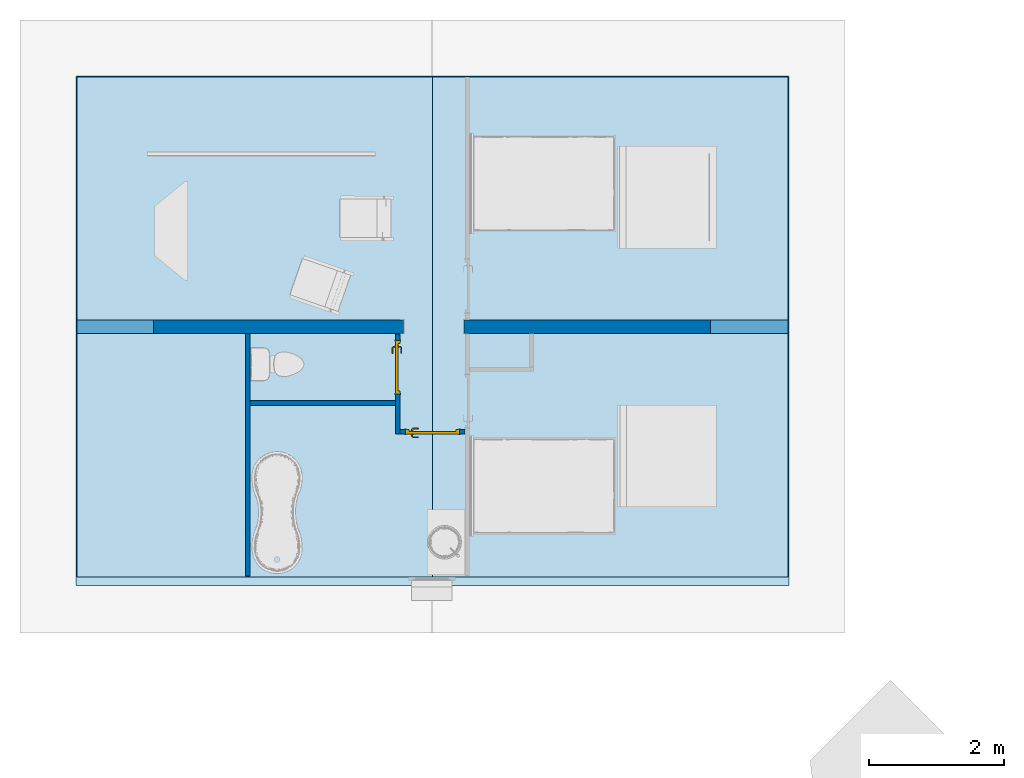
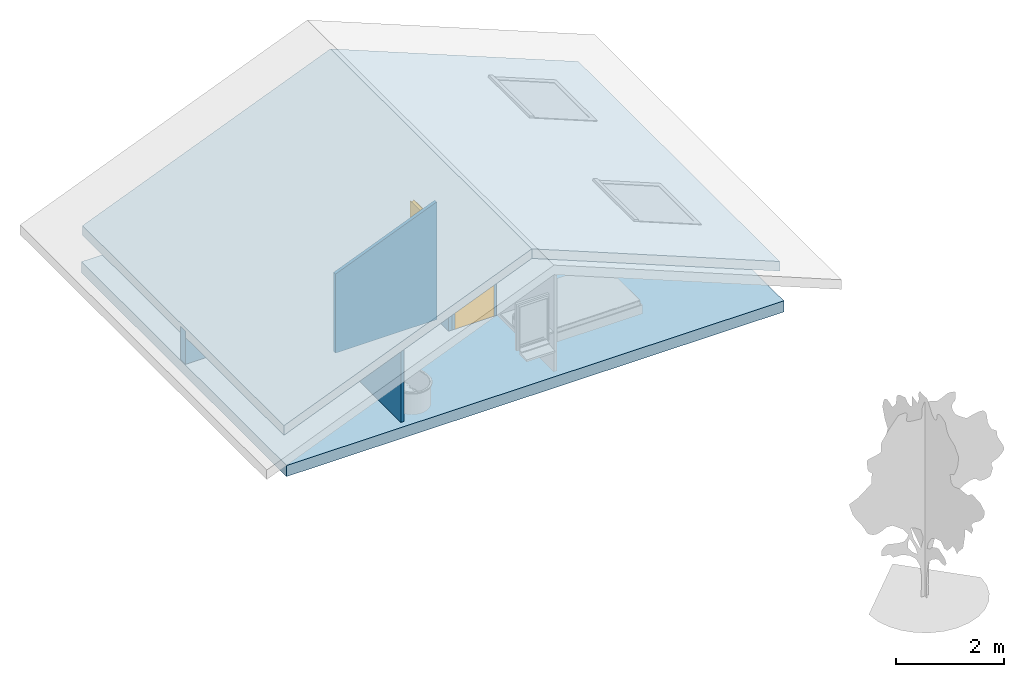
# One storey, part 1 of 6: 5 walls, 3 slabs, 2 doors, 4 openings, 1 element without a shape of its own.
"""IFC2X3 building model written with IfcOpenShell, lengths in metres."""

from ifc_helpers import new_model, entity, si_unit, converted_unit, derived_unit, direction, frame, frame_2d, origin, origin_2d_with_axis, place, context, subcontext, project, spatial, polyline, rectangle, extrude, clip, bounded_halfspace, faceted_brep, source, transform, mapped, material, material_list, layer, layer_set, layer_usage, type_object, type_shapes, element, fill, aggregate, save


model = new_model("IFC2X3")

# Units and contexts
model_context = context("Model", 3, precision=1e-05, world=origin(), true_north=direction((6.12303176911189e-17, 1.0)))
body_context = subcontext(model_context, "Body", "Model", "MODEL_VIEW")
ifc_project = project(units=[si_unit("LENGTHUNIT", "METRE"), si_unit("AREAUNIT", "SQUARE_METRE"), si_unit("VOLUMEUNIT", "CUBIC_METRE"), converted_unit("PLANEANGLEUNIT", "DEGREE", entity("IfcRatioMeasure", 0.0174532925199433), si_unit("PLANEANGLEUNIT", "RADIAN"), dimensions=[0, 0, 0, 0, 0, 0, 0]), si_unit("MASSUNIT", "GRAM", prefix="KILO"), derived_unit("MASSDENSITYUNIT", [(si_unit("MASSUNIT", "GRAM", prefix="KILO"), 1), (si_unit("LENGTHUNIT", "METRE"), -3)]), derived_unit("MOMENTOFINERTIAUNIT", [(si_unit("LENGTHUNIT", "METRE"), 4)]), si_unit("TIMEUNIT", "SECOND"), si_unit("FREQUENCYUNIT", "HERTZ"), si_unit("THERMODYNAMICTEMPERATUREUNIT", "DEGREE_CELSIUS"), derived_unit("THERMALTRANSMITTANCEUNIT", [(si_unit("MASSUNIT", "GRAM", prefix="KILO"), 1), (si_unit("THERMODYNAMICTEMPERATUREUNIT", "KELVIN"), -1), (si_unit("TIMEUNIT", "SECOND"), -3)]), derived_unit("VOLUMETRICFLOWRATEUNIT", [(si_unit("LENGTHUNIT", "METRE"), 3), (si_unit("TIMEUNIT", "SECOND"), -1)]), si_unit("ELECTRICCURRENTUNIT", "AMPERE"), si_unit("ELECTRICVOLTAGEUNIT", "VOLT"), si_unit("POWERUNIT", "WATT"), si_unit("FORCEUNIT", "NEWTON", prefix="KILO"), si_unit("ILLUMINANCEUNIT", "LUX"), si_unit("LUMINOUSFLUXUNIT", "LUMEN"), si_unit("LUMINOUSINTENSITYUNIT", "CANDELA"), derived_unit("USERDEFINED", [(si_unit("MASSUNIT", "GRAM", prefix="KILO"), -1), (si_unit("LENGTHUNIT", "METRE"), -2), (si_unit("TIMEUNIT", "SECOND"), 3), (si_unit("LUMINOUSFLUXUNIT", "LUMEN"), 1)]), derived_unit("LINEARVELOCITYUNIT", [(si_unit("LENGTHUNIT", "METRE"), 1), (si_unit("TIMEUNIT", "SECOND"), -1)]), si_unit("PRESSUREUNIT", "PASCAL"), derived_unit("USERDEFINED", [(si_unit("LENGTHUNIT", "METRE"), -2), (si_unit("MASSUNIT", "GRAM", prefix="KILO"), 1), (si_unit("TIMEUNIT", "SECOND"), -2)]), derived_unit("LINEARFORCEUNIT", [(si_unit("MASSUNIT", "GRAM", prefix="KILO"), 1), (si_unit("LENGTHUNIT", "METRE"), 1), (si_unit("TIMEUNIT", "SECOND"), -2), (si_unit("LENGTHUNIT", "METRE"), -1)]), derived_unit("PLANARFORCEUNIT", [(si_unit("MASSUNIT", "GRAM", prefix="KILO"), 1), (si_unit("LENGTHUNIT", "METRE"), 1), (si_unit("TIMEUNIT", "SECOND"), -2), (si_unit("LENGTHUNIT", "METRE"), -2)])], contexts=[model_context])

# Site, building, storey
site_placement = place(None, origin())
site = spatial("IfcSite", under=ifc_project, at=site_placement, Name="Surface", CompositionType="ELEMENT")
building_placement = place(site_placement, origin())
building = spatial("IfcBuilding", under=site, at=building_placement, CompositionType="ELEMENT")
storey_placement = place(building_placement, frame((0.0, 0.0, 5.6)))
storey = spatial("IfcBuildingStorey", under=building, at=storey_placement, Name="Niveau comble", CompositionType="ELEMENT", Elevation=5.6)

# Slab, opening
ifc_material_1 = material(Name="Maçonnerie - Béton")
ifc_layer_1 = layer(ifc_material_1, 0.25)
ifc_layer_set_1 = layer_set([ifc_layer_1], Name="Sol:Dalle en béton - 250 mm")
ifc_layer_usage_1 = layer_usage(ifc_layer_set_1, "AXIS3", "POSITIVE", 0.0)
slab_type_1 = type_object("IfcSlabType", Name="Sol:Dalle en béton - 250 mm", PredefinedType="FLOOR", material=ifc_layer_set_1)
slab_1_placement = place(storey_placement, frame((1.8693960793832, -0.550741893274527, -0.25)))
slab_1 = element("IfcSlab", 1, at=slab_1_placement, inside=storey, type_object=slab_type_1, material=ifc_layer_usage_1, Name="Sol:Dalle en béton - 250 mm", ObjectType="Sol:Dalle en béton - 250 mm", PredefinedType="FLOOR", context=body_context, shape_type="SweptSolid", body=[
    extrude(rectangle(XDim=10.6, YDim=7.57500000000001, at=origin_2d_with_axis()), frame((5.30000000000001, 3.78750000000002, 0.249999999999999), z_axis=(0.0, 0.0, -1.0), x_axis=(-1.0, 0.0, 0.0)), (0.0, 0.0, 1.0), 0.249999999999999),
])
opening_1_placement = place(slab_1_placement, frame((2.75768532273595, 6.97466465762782, 0.249999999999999)))
element("IfcOpeningElement", 2, at=opening_1_placement, cuts=slab_1, Name="Sol:Dalle en béton - 250 mm:2", ObjectType="Opening", context=body_context, shape_type="SweptSolid", body=[
    extrude(rectangle(XDim=1.15067068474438, YDim=3.39537064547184, at=origin_2d_with_axis()), frame((0.0, 0.0, 0.0), z_axis=(0.0, 0.0, -1.0), x_axis=(0.0, 1.0, 0.0)), (0.0, 0.0, 1.0), 0.249999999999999),
])

# Roof, slabs
roof_placement = place(storey_placement, frame((1.8843960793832, -0.425741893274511, 0.6)))
roof = element("IfcRoof", 3, at=roof_placement, inside=storey, Name="Toit de base:isolation toiture", ObjectType="Toit de base:isolation toiture", ShapeType="NOTDEFINED")
ifc_material_2 = material(Name="Maçonnerie - Isolant")
ifc_layer_2 = layer(ifc_material_2, 0.2)
ifc_layer_set_2 = layer_set([ifc_layer_2], Name="Toit de base:isolation toiture")
slab_type_2 = type_object("IfcSlabType", Name="Toit de base:isolation toiture", PredefinedType="ROOF")
slab_2_placement = place(roof_placement, origin())
slab_2 = element("IfcSlab", 4, at=slab_2_placement, type_object=slab_type_2, material=ifc_layer_set_2, Name="Toit de base:isolation toiture", ObjectType="Toit de base:isolation toiture", PredefinedType="ROOF", context=body_context, shape_type="SweptSolid", body=[
    extrude(rectangle(XDim=7.43499999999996, YDim=5.70005611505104, at=frame_2d((4.44089209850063e-16, 5.32907051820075e-15), x_axis=(0.0, 1.0))), frame((2.64250000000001, 3.71750000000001, 1.0676393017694), z_axis=(-0.374606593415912, 0.0, 0.927183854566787), x_axis=(0.927183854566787, 0.0, 0.374606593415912)), (0.374606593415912, 0.0, 0.927183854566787), 0.215706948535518),
])
slab_type_3 = type_object("IfcSlabType", Name="Toit de base:isolation toiture", PredefinedType="ROOF")
slab_3_placement = place(roof_placement, origin())
slab_3 = element("IfcSlab", 5, at=slab_3_placement, type_object=slab_type_3, material=ifc_layer_set_2, Name="Toit de base:isolation toiture", ObjectType="Toit de base:isolation toiture", PredefinedType="ROOF", context=body_context, shape_type="SweptSolid", body=[
    extrude(rectangle(XDim=5.70005611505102, YDim=7.43499999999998, at=frame_2d((1.11022302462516e-15, -4.44089209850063e-15), x_axis=(1.0, 0.0))), frame((7.92750000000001, 3.7175, 1.0676393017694), z_axis=(0.374606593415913, 0.0, 0.927183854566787), x_axis=(0.927183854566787, 0.0, -0.374606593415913)), (-0.374606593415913, 0.0, 0.927183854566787), 0.215706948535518),
])
aggregate(roof, [slab_2, slab_3])

# Wall, opening
ifc_material_3 = material(Name="Blocs béton manufacturés")
ifc_layer_3 = layer(ifc_material_3, 0.2)
ifc_layer_set_3 = layer_set([ifc_layer_3], Name="Mur de base:Parpaing 20")
ifc_layer_usage_2 = layer_usage(ifc_layer_set_3, "AXIS2", "NEGATIVE", 0.1)
wall_type_1 = type_object("IfcWallType", Name="Mur de base:Parpaing 20", PredefinedType="STANDARD", material=ifc_layer_set_3)
wall_1_placement = place(storey_placement, frame((12.4543960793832, 3.29925810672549, 0.0), z_axis=(0.0, 0.0, 1.0), x_axis=(-1.0, 0.0, 0.0)))
wall_1 = element("IfcWallStandardCase", 6, at=wall_1_placement, inside=storey, type_object=wall_type_1, material=ifc_layer_usage_2, Name="Mur de base:Parpaing 20", ObjectType="Mur de base:Parpaing 20", context=body_context, shape_type="Clipping", body=[
    clip(clip(extrude(rectangle(XDim=10.57, YDim=0.2, at=frame_2d((5.285, 1.38777878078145e-16), x_axis=(-1.0, 0.0))), origin(), (0.0, 0.0, 1.0), 2.8737205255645), bounded_halfspace(frame((0.0, -0.1, 0.736421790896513), z_axis=(-0.374606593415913, 0.0, 0.927183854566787), x_axis=(0.0, -1.0, 0.0)), False, frame((0.0, -0.1, 0.736421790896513)), polyline([(0.0, 0.0), (4.73500000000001, 0.0), (4.80500000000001, 0.0), (5.28999999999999, 0.0), (5.28999999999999, 0.199999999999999), (4.80629475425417, 0.200000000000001), (4.73629475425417, 0.200000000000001), (3.85, 0.2), (3.78, 0.200000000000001), (0.0, 0.2), (0.0, 0.0)]))), bounded_halfspace(frame((5.28999999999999, -0.0999999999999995, 2.8737205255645), z_axis=(0.374606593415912, 0.0, 0.927183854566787), x_axis=(0.0, 1.0, 0.0)), False, frame((5.28999999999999, -0.0999999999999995, 2.8737205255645)), polyline([(0.0, 0.0), (5.28000000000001, 0.0), (5.28000000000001, 0.2), (2.77500000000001, 0.199999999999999), (2.70500000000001, 0.199999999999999), (0.0, 0.2), (0.0, 0.0)]))),
])
opening_2_placement = place(wall_1_placement, frame((4.81499999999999, -0.0999999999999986, 0.0)))
element("IfcOpeningElement", 7, at=opening_2_placement, cuts=wall_1, Name="Ouverture en rectangle:Ouverture en rectangle:1", ObjectType="Opening", context=body_context, shape_type="SweptSolid", body=[
    extrude(rectangle(XDim=2.09999999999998, YDim=0.9, at=frame_2d((1.04999999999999, 0.45), x_axis=(1.0, 0.0))), frame((0.0, 0.0, 0.0), z_axis=(0.0, 1.0, 0.0), x_axis=(0.0, 0.0, 1.0)), (0.0, 0.0, 1.0), 0.2),
])

# Wall, opening, door
ifc_material_4 = material(Name="Mur par défaut")
ifc_layer_4 = layer(ifc_material_4, 0.07)
ifc_layer_set_4 = layer_set([ifc_layer_4], Name="Mur de base:Générique - Int. 70 mm")
ifc_layer_usage_3 = layer_usage(ifc_layer_set_4, "AXIS2", "NEGATIVE", 0.035)
wall_type_2 = type_object("IfcWallType", Name="Mur de base:Générique - Int. 70 mm", PredefinedType="STANDARD", material=ifc_layer_set_4)
wall_2_placement = place(storey_placement, frame((6.65439607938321, 3.18925810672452, 0.0), z_axis=(0.0, 0.0, 1.0), x_axis=(0.0, -1.0, 0.0)))
wall_2 = element("IfcWallStandardCase", 8, at=wall_2_placement, inside=storey, type_object=wall_type_2, material=ifc_layer_usage_3, Name="Mur de base:Générique - Int. 70 mm", ObjectType="Mur de base:Générique - Int. 70 mm", context=body_context, shape_type="Clipping", body=[
    clip(extrude(rectangle(XDim=1.48999999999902, YDim=0.0699999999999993, at=frame_2d((0.744999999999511, -4.5102810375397e-17), x_axis=(-1.0, 0.0))), origin(), (0.0, 0.0, 1.0), 2.6818080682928), bounded_halfspace(frame((0.0, -0.0350000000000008, 2.65352623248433), z_axis=(0.0, -0.374606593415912, 0.927183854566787), x_axis=(1.0, 0.0, 0.0)), False, frame((0.0, -0.0350000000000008, 2.65352623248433)), polyline([(0.0, 0.0), (0.98999999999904, 0.0), (1.05999999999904, 0.0), (1.48999999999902, 0.0), (1.48999999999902, 0.0700000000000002), (1.41999999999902, 0.0700000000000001), (0.0, 0.0700000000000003), (0.0, 0.0)]))),
])
opening_3_placement = place(wall_2_placement, frame((0.894999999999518, 0.0349999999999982, 0.0)))
opening_3 = element("IfcOpeningElement", 9, at=opening_3_placement, cuts=wall_2, Name="Int. Simple:PP (0.73m x 2.04m):1", ObjectType="Opening", context=body_context, shape_type="SweptSolid", body=[
    extrude(rectangle(XDim=2.075, YDim=0.799999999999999, at=frame_2d((1.0375, 0.4), x_axis=(1.0, 0.0))), frame((0.0, 0.0, 0.0), z_axis=(0.0, -1.0, 0.0), x_axis=(0.0, 0.0, 1.0)), (0.0, 0.0, 1.0), 0.07),
])
ifc_material_5 = material(Name="Finition Peinture - Blanc satiné")
ifc_material_6 = material(Name="Bois - Panneau de porte")
ifc_material_7 = material(Name="Bois - Cadre de porte")
ifc_material_list_1 = material_list([ifc_material_5, ifc_material_6, ifc_material_7])
ifc_material_list_2 = material_list([ifc_material_6, ifc_material_5, ifc_material_7])
door_style = type_object("IfcDoorStyle", Name="Int. Simple:PP (0.73m x 2.04m)", ConstructionType="NOTDEFINED", OperationType="NOTDEFINED", ParameterTakesPrecedence=False, Sizeable=False, material=ifc_material_list_2)
shared_shape = source(origin(), body_context, "Body", "Brep", [
    faceted_brep([(0.105352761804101, -0.00500000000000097, 0.866003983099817), (0.115, -0.00500000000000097, 0.870000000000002), (0.114999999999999, -0.00500000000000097, 1.08), (0.1053527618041, -0.00500000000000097, 1.08399601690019), (0.0949999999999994, -0.00500000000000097, 1.08535898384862), (0.0846472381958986, -0.00500000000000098, 1.08399601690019), (0.0749999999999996, -0.00500000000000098, 1.08), (0.0750000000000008, -0.00500000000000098, 0.870000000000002), (0.0846472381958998, -0.00500000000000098, 0.866003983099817), (0.0950000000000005, -0.00500000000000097, 0.86464101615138), (0.1053527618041, 0.0, 1.08399601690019), (0.114999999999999, 0.0, 1.08), (0.115, 0.0, 0.870000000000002), (0.105352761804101, 0.0, 0.866003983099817), (0.0950000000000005, 0.0, 0.86464101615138), (0.0846472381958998, 0.0, 0.866003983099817), (0.0749999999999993, 0.0, 0.870000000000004), (0.0749999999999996, 0.0, 1.08), (0.0846472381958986, 0.0, 1.08399601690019), (0.0949999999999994, 0.0, 1.08535898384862)], [[[0, 1, 2, 3, 4, 5, 6, 7, 8, 9]], [[10, 11, 12, 13, 14, 15, 16, 17, 18, 19]], [[16, 15, 8, 7]], [[8, 15, 14, 9]], [[14, 13, 0, 9]], [[13, 12, 1, 0]], [[2, 1, 12, 11]], [[11, 10, 3, 2]], [[3, 10, 19, 4]], [[19, 18, 5, 4]], [[18, 17, 6, 5]], [[7, 6, 17, 16]]]),
    faceted_brep([(0.105352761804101, 0.039999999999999, 0.866003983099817), (0.115, 0.039999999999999, 0.870000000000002), (0.114999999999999, 0.039999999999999, 1.08), (0.1053527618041, 0.039999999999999, 1.08399601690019), (0.094999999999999, 0.039999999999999, 1.08535898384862), (0.0846472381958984, 0.039999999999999, 1.08399601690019), (0.0749999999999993, 0.039999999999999, 1.08), (0.0750000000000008, 0.039999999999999, 0.870000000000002), (0.0846472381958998, 0.039999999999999, 0.866003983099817), (0.0950000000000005, 0.039999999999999, 0.86464101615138), (0.1053527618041, 0.044999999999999, 1.08399601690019), (0.114999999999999, 0.044999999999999, 1.08), (0.115, 0.044999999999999, 0.870000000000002), (0.105352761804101, 0.044999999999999, 0.866003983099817), (0.0950000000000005, 0.044999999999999, 0.86464101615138), (0.0846472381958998, 0.044999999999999, 0.866003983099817), (0.0749999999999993, 0.044999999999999, 0.870000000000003), (0.0749999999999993, 0.044999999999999, 1.08), (0.0846472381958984, 0.044999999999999, 1.08399601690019), (0.094999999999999, 0.044999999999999, 1.08535898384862)], [[[0, 1, 2, 3, 4, 5, 6, 7, 8, 9]], [[10, 11, 12, 13, 14, 15, 16, 17, 18, 19]], [[11, 10, 3, 2]], [[3, 10, 19, 4]], [[19, 18, 5, 4]], [[18, 17, 6, 5]], [[7, 6, 17, 16]], [[16, 15, 8, 7]], [[8, 15, 14, 9]], [[14, 13, 0, 9]], [[13, 12, 1, 0]], [[2, 1, 12, 11]]]),
    faceted_brep([(0.0929747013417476, -0.00500000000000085, 1.00778044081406), (0.0970252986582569, -0.00500000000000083, 1.00778044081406), (0.101000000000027, -0.00500000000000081, 1.00699999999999), (0.101000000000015, -0.00500000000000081, 0.993000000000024), (0.0970252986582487, -0.00500000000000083, 0.992219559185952), (0.0929747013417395, -0.00500000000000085, 0.99221955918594), (0.0889999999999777, -0.00500000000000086, 0.992999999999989), (0.0889999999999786, -0.00500000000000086, 1.007), (0.0889999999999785, -0.0326509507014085, 1.007), (0.0929747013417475, -0.0310045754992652, 1.00778044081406), (0.109023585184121, -0.047053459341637, 1.00778044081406), (0.110701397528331, -0.0430028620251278, 1.00778044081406), (0.0970252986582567, -0.0293267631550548, 1.00778044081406), (0.101000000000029, -0.0276803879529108, 1.007), (0.101000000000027, -0.0276803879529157, 0.993000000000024), (0.0970252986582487, -0.0293267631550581, 0.992219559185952), (0.110701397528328, -0.0430028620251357, 0.992219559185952), (0.109023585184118, -0.0470534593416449, 0.99221955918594), (0.0929747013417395, -0.0310045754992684, 0.99221955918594), (0.0889999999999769, -0.0326509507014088, 0.992999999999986), (0.107377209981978, -0.051028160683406, 1.007), (0.112347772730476, -0.039028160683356, 1.007), (0.112347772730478, -0.0390281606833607, 0.993000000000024), (0.107377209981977, -0.0510281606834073, 0.992999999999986), (0.195018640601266, -0.051028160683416, 0.992999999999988), (0.195018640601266, -0.0470534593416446, 0.99221955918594), (0.195018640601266, -0.0430028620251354, 0.992219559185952), (0.195018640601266, -0.0390281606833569, 0.993000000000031), (0.195018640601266, -0.0390281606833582, 1.007), (0.195018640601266, -0.0430028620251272, 1.00778044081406), (0.195018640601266, -0.0470534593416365, 1.00778044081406), (0.195018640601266, -0.0510281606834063, 1.00699999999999), (0.147307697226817, -0.0510281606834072, 1.007), (0.152860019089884, -0.0450281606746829, 1.0078786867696), (0.15368320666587, -0.0390281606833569, 1.007), (0.153683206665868, -0.0390281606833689, 0.993000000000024), (0.152860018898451, -0.0450281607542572, 0.992121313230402), (0.147307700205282, -0.0510281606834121, 0.992999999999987)], [[[0, 1, 2, 3, 4, 5, 6, 7]], [[8, 9, 0, 7]], [[9, 10, 11, 12, 1, 0]], [[12, 13, 2, 1]], [[3, 2, 13, 14]], [[14, 15, 4, 3]], [[15, 16, 17, 18, 5, 4]], [[18, 19, 6, 5]], [[7, 6, 19, 8]], [[20, 10, 9, 8]], [[11, 21, 13, 12]], [[14, 13, 21, 22]], [[22, 16, 15, 14]], [[17, 23, 19, 18]], [[8, 19, 23, 20]], [[24, 25, 26, 27, 28, 29, 30, 31]], [[32, 30, 33]], [[31, 30, 32]], [[10, 20, 32]], [[33, 34, 11]], [[21, 11, 34]], [[34, 29, 28]], [[30, 29, 33]], [[29, 34, 33]], [[10, 32, 33]], [[10, 33, 11]], [[22, 21, 34, 28, 27, 35]], [[35, 26, 36]], [[37, 36, 25]], [[22, 35, 16]], [[35, 27, 26]], [[24, 37, 25]], [[23, 17, 37]], [[37, 17, 36]], [[17, 16, 36]], [[16, 35, 36]], [[25, 36, 26]], [[20, 23, 37, 24, 31, 32]]]),
    faceted_brep([(0.0929747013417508, 0.0449999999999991, 1.00778044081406), (0.0889999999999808, 0.0449999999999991, 1.007), (0.0889999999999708, 0.0449999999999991, 0.992999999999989), (0.0929747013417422, 0.0449999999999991, 0.99221955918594), (0.0970252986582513, 0.0449999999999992, 0.992219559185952), (0.10100000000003, 0.0449999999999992, 0.993000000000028), (0.101000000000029, 0.0449999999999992, 1.007), (0.0970252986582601, 0.0449999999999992, 1.00778044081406), (0.10100000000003, 0.0674852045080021, 0.993000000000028), (0.10100000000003, 0.0674852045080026, 1.007), (0.0970252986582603, 0.0691315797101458, 1.00778044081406), (0.110838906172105, 0.0829451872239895, 1.00778044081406), (0.109161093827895, 0.0869957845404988, 1.00778044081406), (0.092974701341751, 0.070809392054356, 1.00778044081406), (0.0889999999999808, 0.0724557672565, 1.007), (0.0889999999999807, 0.0724557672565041, 0.992999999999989), (0.0929747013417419, 0.0708093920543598, 0.99221955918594), (0.109161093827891, 0.0869957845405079, 0.99221955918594), (0.110838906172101, 0.0829451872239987, 0.992219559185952), (0.0970252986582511, 0.0691315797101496, 0.992219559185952), (0.112485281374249, 0.0789704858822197, 0.993000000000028), (0.112485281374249, 0.07897048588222, 1.007), (0.107514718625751, 0.090970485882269, 1.007), (0.107514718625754, 0.0909704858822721, 0.992999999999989), (0.195045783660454, 0.0789704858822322, 0.993000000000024), (0.195045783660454, 0.0829451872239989, 0.992219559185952), (0.195045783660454, 0.0869957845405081, 0.99221955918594), (0.195045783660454, 0.0909704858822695, 0.992999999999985), (0.195045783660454, 0.0909704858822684, 1.007), (0.195045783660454, 0.0869957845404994, 1.00778044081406), (0.195045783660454, 0.0829451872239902, 1.00778044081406), (0.195045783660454, 0.07897048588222, 1.007), (0.153765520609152, 0.0789704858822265, 0.993000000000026), (0.153765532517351, 0.0789704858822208, 1.007), (0.152942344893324, 0.0849704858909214, 1.0078786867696), (0.147445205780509, 0.0909704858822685, 1.007), (0.147445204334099, 0.0909704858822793, 0.992999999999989), (0.152942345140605, 0.0849704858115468, 0.992121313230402)], [[[0, 1, 2, 3, 4, 5, 6, 7]], [[6, 5, 8, 9]], [[9, 10, 7, 6]], [[10, 11, 12, 13, 0, 7]], [[13, 14, 1, 0]], [[2, 1, 14, 15]], [[15, 16, 3, 2]], [[16, 17, 18, 19, 4, 3]], [[19, 8, 5, 4]], [[9, 8, 20, 21]], [[21, 11, 10, 9]], [[12, 22, 14, 13]], [[15, 14, 22, 23]], [[23, 17, 16, 15]], [[18, 20, 8, 19]], [[24, 25, 26, 27, 28, 29, 30, 31]], [[21, 20, 32, 24, 31, 33]], [[33, 30, 34]], [[35, 34, 29]], [[21, 33, 11]], [[33, 31, 30]], [[28, 35, 29]], [[22, 12, 35]], [[35, 12, 34]], [[12, 11, 34]], [[11, 33, 34]], [[29, 34, 30]], [[22, 35, 28, 27, 36, 23]], [[36, 26, 37]], [[27, 26, 36]], [[17, 23, 36]], [[37, 32, 18]], [[20, 18, 32]], [[32, 25, 24]], [[26, 25, 37]], [[25, 32, 37]], [[17, 36, 37]], [[17, 37, 18]]]),
    faceted_brep([(0.0349999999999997, 0.0400000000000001, 2.04), (0.765, 0.0400000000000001, 2.04), (0.765, 0.0400000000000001, 0.0), (0.0349999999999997, 0.0400000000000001, 0.0), (0.0349999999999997, 0.0, 2.04), (0.0349999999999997, 0.0, 0.0), (0.765, 0.0, 0.0), (0.765, 0.0, 2.04)], [[[0, 1, 2, 3]], [[4, 5, 6, 7]], [[1, 0, 4, 7]], [[2, 1, 7, 6]], [[3, 2, 6, 5]], [[0, 3, 5, 4]]]),
    faceted_brep([(0.0, 0.0, 0.0), (0.0, 0.0699999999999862, 0.0), (0.0500000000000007, 0.0699999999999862, 0.0), (0.0500000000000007, 0.04, 0.0), (0.0349999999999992, 0.04, 0.0), (0.0349999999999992, 0.0, 0.0), (0.0, 0.0, 2.07500000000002), (0.0, 0.0699999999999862, 2.07500000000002), (0.800000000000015, 0.0699999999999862, 2.07500000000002), (0.800000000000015, 0.0699999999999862, 0.0), (0.749999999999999, 0.0699999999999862, 0.0), (0.749999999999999, 0.0699999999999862, 2.025), (0.0500000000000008, 0.0699999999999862, 2.025), (0.0500000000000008, 0.04, 2.025), (0.749999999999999, 0.04, 2.025), (0.749999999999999, 0.04, 0.0), (0.765000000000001, 0.04, 0.0), (0.765000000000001, 0.04, 2.04), (0.0349999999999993, 0.04, 2.04), (0.0349999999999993, 0.0, 2.04), (0.765000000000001, 0.0, 2.04), (0.765000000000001, 0.0, 0.0), (0.800000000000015, 0.0, 0.0), (0.800000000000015, 0.0, 2.07500000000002)], [[[0, 1, 2, 3, 4, 5]], [[1, 0, 6, 7]], [[2, 1, 7, 8, 9, 10, 11, 12]], [[3, 2, 12, 13]], [[4, 3, 13, 14, 15, 16, 17, 18]], [[5, 4, 18, 19]], [[0, 5, 19, 20, 21, 22, 23, 6]], [[8, 23, 22, 9]], [[22, 21, 16, 15, 10, 9]], [[14, 11, 10, 15]], [[20, 17, 16, 21]], [[7, 6, 23, 8]], [[13, 12, 11, 14]], [[19, 18, 17, 20]]]),
    faceted_brep([(0.0149999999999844, 0.0699999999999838, 0.0), (-0.0150000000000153, 0.0699999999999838, 0.0), (-0.0150000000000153, 0.0749999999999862, 0.0), (0.0149999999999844, 0.0749999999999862, 0.0), (0.0149999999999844, 0.0699999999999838, 2.06000000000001), (0.784999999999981, 0.0699999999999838, 2.06000000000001), (0.784999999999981, 0.0699999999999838, 0.0), (0.81499999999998, 0.0699999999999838, 0.0), (0.81499999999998, 0.0699999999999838, 2.09000000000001), (-0.0150000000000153, 0.0699999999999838, 2.09000000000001), (-0.0150000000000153, 0.0749999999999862, 2.09000000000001), (0.81499999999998, 0.0749999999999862, 2.09000000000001), (0.81499999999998, 0.0749999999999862, 0.0), (0.784999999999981, 0.0749999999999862, 0.0), (0.784999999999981, 0.0749999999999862, 2.06000000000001), (0.0149999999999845, 0.0749999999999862, 2.06000000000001)], [[[0, 1, 2, 3]], [[1, 0, 4, 5, 6, 7, 8, 9]], [[2, 1, 9, 10]], [[3, 2, 10, 11, 12, 13, 14, 15]], [[0, 3, 15, 4]], [[6, 13, 12, 7]], [[5, 14, 13, 6]], [[11, 8, 7, 12]], [[10, 9, 8, 11]], [[4, 15, 14, 5]]]),
    faceted_brep([(-0.0150000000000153, -0.00499999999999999, 0.0), (0.0149999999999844, -0.00499999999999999, 0.0), (0.0149999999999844, -0.00499999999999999, 2.06000000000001), (0.784999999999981, -0.00499999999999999, 2.06000000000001), (0.784999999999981, -0.00499999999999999, 0.0), (0.81499999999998, -0.00499999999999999, 0.0), (0.81499999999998, -0.00499999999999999, 2.09000000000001), (-0.0150000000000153, -0.00499999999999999, 2.09000000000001), (-0.0150000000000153, 0.0, 0.0), (-0.0150000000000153, 0.0, 2.09000000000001), (0.0149999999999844, 0.0, 0.0), (0.81499999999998, 0.0, 2.09000000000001), (0.81499999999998, 0.0, 0.0), (0.784999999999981, 0.0, 0.0), (0.784999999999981, 0.0, 2.06000000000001), (0.0149999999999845, 0.0, 2.06000000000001)], [[[0, 1, 2, 3, 4, 5, 6, 7]], [[8, 0, 7, 9]], [[10, 8, 9, 11, 12, 13, 14, 15]], [[1, 10, 15, 2]], [[3, 14, 13, 4]], [[11, 6, 5, 12]], [[9, 7, 6, 11]], [[2, 15, 14, 3]], [[4, 13, 12, 5]], [[1, 0, 8, 10]]]),
])
type_shapes(door_style, [shared_shape])
door_1_placement = place(opening_3_placement, frame((-0.799999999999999, -0.0699999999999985, 0.0)))
door_1 = element("IfcDoor", 10, at=door_1_placement, inside=storey, type_object=door_style, material=ifc_material_list_1, Name="Int. Simple:PP (0.73m x 2.04m)", ObjectType="Int. Simple:PP (0.73m x 2.04m)", OverallHeight=2.075, OverallWidth=0.799999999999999, context=body_context, shape_type="MappedRepresentation", body=[
    mapped(shared_shape, transform((0.0, 0.0, 0.0), scale=1.0)),
])
fill(opening_3, door_1)

ifc_layer_usage_4 = layer_usage(ifc_layer_set_4, "AXIS2", "NEGATIVE", 0.035)
wall_3_placement = place(storey_placement, frame((6.68939607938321, 1.73425810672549, 0.0)))
wall_3 = element("IfcWallStandardCase", 11, at=wall_3_placement, inside=storey, type_object=wall_type_2, material=ifc_layer_usage_4, Name="Mur de base:Générique - Int. 70 mm", ObjectType="Mur de base:Générique - Int. 70 mm", context=body_context, shape_type="Clipping", body=[
    clip(clip(extrude(rectangle(XDim=0.958705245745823, YDim=0.0699999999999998, at=frame_2d((0.479352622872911, 2.42861286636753e-17), x_axis=(-1.0, 0.0))), origin(), (0.0, 0.0, 1.0), 2.8737205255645), bounded_halfspace(frame((0.958705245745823, -0.0350000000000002, 2.67829092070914), z_axis=(0.374606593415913, 0.0, 0.927183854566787), x_axis=(0.0, 1.0, 0.0)), False, frame((0.958705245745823, -0.0350000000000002, 2.67829092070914)), polyline([(0.0, 0.0), (0.0, 0.0700000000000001), (-0.483705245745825, 0.0699999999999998), (-0.483705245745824, 0.0), (0.0, 0.0)]))), bounded_halfspace(frame((0.0, 0.0349999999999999, 2.6818080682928), z_axis=(-0.374606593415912, 0.0, 0.927183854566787), x_axis=(0.0, -1.0, 0.0)), False, frame((0.0, 0.0349999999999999, 2.6818080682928)), polyline([(0.0, 0.0), (0.0, -0.0700000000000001), (0.474999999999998, -0.0700000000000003), (0.474999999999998, 0.0), (0.0, 0.0)]))),
])
opening_4_placement = place(wall_3_placement, frame((0.879352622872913, 0.034999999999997, 0.0)))
opening_4 = element("IfcOpeningElement", 12, at=opening_4_placement, cuts=wall_3, Name="Int. Simple:PP (0.73m x 2.04m):1", ObjectType="Opening", context=body_context, shape_type="SweptSolid", body=[
    extrude(rectangle(XDim=2.075, YDim=0.799999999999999, at=frame_2d((1.0375, 0.4), x_axis=(1.0, 0.0))), frame((0.0, 0.0, 0.0), z_axis=(0.0, -1.0, 0.0), x_axis=(0.0, 0.0, 1.0)), (0.0, 0.0, 1.0), 0.07),
])
ifc_material_list_3 = material_list([ifc_material_5, ifc_material_6, ifc_material_7])
door_2_placement = place(opening_4_placement, frame((-0.800000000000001, -0.0699999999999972, 0.0)))
door_2 = element("IfcDoor", 13, at=door_2_placement, inside=storey, type_object=door_style, material=ifc_material_list_3, Name="Int. Simple:PP (0.73m x 2.04m)", ObjectType="Int. Simple:PP (0.73m x 2.04m)", OverallHeight=2.075, OverallWidth=0.8, context=body_context, shape_type="MappedRepresentation", body=[
    mapped(shared_shape, transform((0.0, 0.0, 0.0), scale=1.0)),
])
fill(opening_4, door_2)

# Walls
ifc_layer_usage_5 = layer_usage(ifc_layer_set_4, "AXIS2", "NEGATIVE", 0.035)
wall_4_placement = place(storey_placement, frame((6.61939607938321, 2.16425810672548, 0.0), z_axis=(0.0, 0.0, 1.0), x_axis=(-1.0, 0.0, 0.0)))
element("IfcWallStandardCase", 14, at=wall_4_placement, inside=storey, type_object=wall_type_2, material=ifc_layer_usage_5, Name="Mur de base:Générique - Int. 70 mm", ObjectType="Mur de base:Générique - Int. 70 mm", context=body_context, shape_type="Clipping", body=[
    clip(extrude(rectangle(XDim=2.16000000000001, YDim=0.0699999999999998, at=frame_2d((1.08000000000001, 2.08166817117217e-17), x_axis=(-1.0, 0.0))), origin(), (0.0, 0.0, 1.0), 2.65352623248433), bounded_halfspace(frame((0.0, -0.0350000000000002, 2.65352623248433), z_axis=(0.374606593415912, 0.0, 0.927183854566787), x_axis=(0.0, 1.0, 0.0)), False, frame((0.0, -0.0350000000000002, 2.65352623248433)), polyline([(0.0, 0.0), (2.16000000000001, 0.0), (2.16000000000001, 0.0700000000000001), (0.0, 0.0700000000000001), (0.0, 0.0)]))),
])
ifc_layer_usage_6 = layer_usage(ifc_layer_set_4, "AXIS2", "NEGATIVE", 0.035)
wall_5_placement = place(storey_placement, frame((4.4243960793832, -0.405741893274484, 0.0), z_axis=(0.0, 0.0, 1.0), x_axis=(0.0, 1.0, 0.0)))
element("IfcWallStandardCase", 15, at=wall_5_placement, inside=storey, type_object=wall_type_2, material=ifc_layer_usage_6, Name="Mur de base:Générique - Int. 70 mm", ObjectType="Mur de base:Générique - Int. 70 mm", context=body_context, shape_type="Clipping", body=[
    clip(extrude(rectangle(XDim=3.60499999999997, YDim=0.0700000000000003, at=frame_2d((1.80249999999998, 4.16333634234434e-17), x_axis=(-1.0, 0.0))), origin(), (0.0, 0.0, 1.0), 1.7808295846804), bounded_halfspace(frame((0.0, -0.0349999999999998, 1.7808295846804), z_axis=(0.0, 0.374606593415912, 0.927183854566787), x_axis=(-1.0, 0.0, 0.0)), False, frame((0.0, -0.0349999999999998, 1.7808295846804)), polyline([(0.0, 0.0), (2.53499999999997, 0.0), (2.60499999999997, 0.0), (3.60499999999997, 0.0), (3.60499999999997, 0.0700000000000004), (0.0, 0.0699999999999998), (0.0, 0.0)]))),
])

save(model, "model.ifc")
